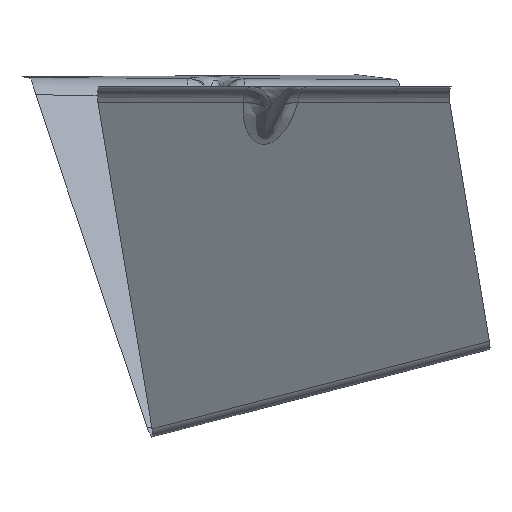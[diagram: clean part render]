
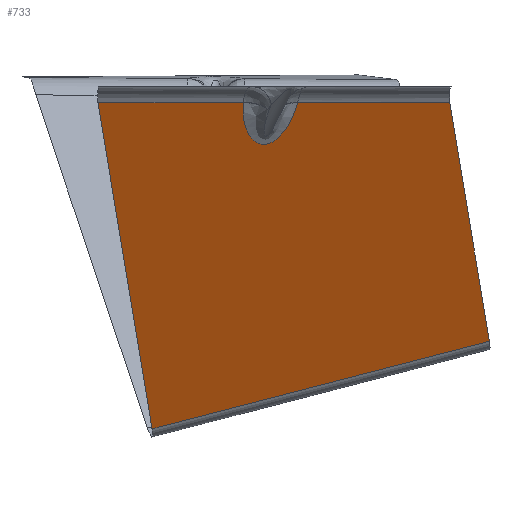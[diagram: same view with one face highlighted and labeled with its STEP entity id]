
A CAD part, left-side view. The second image highlights one B-rep face of the part: STEP entity #733.
In plain terms, the highlighted planar face has unit normal (-0.83, -0.249, -0.5).
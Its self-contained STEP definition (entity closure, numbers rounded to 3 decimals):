
#251=CARTESIAN_POINT('Vertex',(-104.925,9.064,-0.4)) ;
#274=CARTESIAN_POINT('Line Origine',(-82.626,11.684,-38.698)) ;
#278=CARTESIAN_POINT('Vertex',(-104.865,9.071,-0.502)) ;
#618=CARTESIAN_POINT('Control Point',(-100.224,-6.398,-0.502)) ;
#619=CARTESIAN_POINT('Control Point',(-99.76,-6.165,-1.389)) ;
#620=CARTESIAN_POINT('Control Point',(-99.308,-5.891,-2.274)) ;
#621=CARTESIAN_POINT('Control Point',(-98.871,-5.577,-3.155)) ;
#622=CARTESIAN_POINT('Control Point',(-98.084,-4.907,-4.795)) ;
#623=CARTESIAN_POINT('Control Point',(-97.367,-4.058,-6.407)) ;
#624=CARTESIAN_POINT('Control Point',(-97.053,-3.622,-7.146)) ;
#625=CARTESIAN_POINT('Control Point',(-96.64,-2.937,-8.171)) ;
#626=CARTESIAN_POINT('Control Point',(-96.291,-2.123,-9.156)) ;
#627=CARTESIAN_POINT('Control Point',(-96.196,-1.878,-9.435)) ;
#628=CARTESIAN_POINT('Control Point',(-95.979,-1.235,-10.115)) ;
#629=CARTESIAN_POINT('Control Point',(-95.814,-0.501,-10.753)) ;
#630=CARTESIAN_POINT('Control Point',(-95.74,-0.022,-11.115)) ;
#631=CARTESIAN_POINT('Control Point',(-95.677,0.79,-11.624)) ;
#632=CARTESIAN_POINT('Control Point',(-95.737,1.727,-11.99)) ;
#633=CARTESIAN_POINT('Control Point',(-95.777,2.072,-12.096)) ;
#634=CARTESIAN_POINT('Control Point',(-95.882,2.678,-12.223)) ;
#635=CARTESIAN_POINT('Control Point',(-96.05,3.29,-12.25)) ;
#636=CARTESIAN_POINT('Control Point',(-96.129,3.54,-12.242)) ;
#637=CARTESIAN_POINT('Control Point',(-96.368,4.198,-12.173)) ;
#638=CARTESIAN_POINT('Control Point',(-96.66,4.795,-11.986)) ;
#639=CARTESIAN_POINT('Control Point',(-96.857,5.139,-11.83)) ;
#640=CARTESIAN_POINT('Control Point',(-97.205,5.674,-11.52)) ;
#641=CARTESIAN_POINT('Control Point',(-97.561,6.127,-11.154)) ;
#642=CARTESIAN_POINT('Control Point',(-97.712,6.305,-10.992)) ;
#643=CARTESIAN_POINT('Control Point',(-98.05,6.678,-10.617)) ;
#644=CARTESIAN_POINT('Control Point',(-98.388,6.998,-10.216)) ;
#645=CARTESIAN_POINT('Control Point',(-98.574,7.162,-9.989)) ;
#646=CARTESIAN_POINT('Control Point',(-98.992,7.503,-9.465)) ;
#647=CARTESIAN_POINT('Control Point',(-99.405,7.788,-8.922)) ;
#648=CARTESIAN_POINT('Control Point',(-99.633,7.932,-8.616)) ;
#649=CARTESIAN_POINT('Control Point',(-100.139,8.223,-7.921)) ;
#650=CARTESIAN_POINT('Control Point',(-100.636,8.455,-7.212)) ;
#651=CARTESIAN_POINT('Control Point',(-100.909,8.567,-6.815)) ;
#652=CARTESIAN_POINT('Control Point',(-101.884,8.92,-5.373)) ;
#653=CARTESIAN_POINT('Control Point',(-102.825,9.098,-3.899)) ;
#654=CARTESIAN_POINT('Control Point',(-103.488,9.155,-2.829)) ;
#655=CARTESIAN_POINT('Control Point',(-104.156,9.149,-1.717)) ;
#656=CARTESIAN_POINT('Control Point',(-104.807,9.078,-0.601)) ;
#657=CARTESIAN_POINT('Control Point',(-104.827,9.076,-0.568)) ;
#658=CARTESIAN_POINT('Control Point',(-104.846,9.074,-0.535)) ;
#659=CARTESIAN_POINT('Control Point',(-104.865,9.071,-0.502)) ;
#660=CARTESIAN_POINT('Vertex',(-100.224,-6.398,-0.502)) ;
#678=CARTESIAN_POINT('Axis2P3D Location',(-46.3,-13.89,-86.234)) ;
#683=CARTESIAN_POINT('Line Origine',(-100.251,-6.412,-0.451)) ;
#687=CARTESIAN_POINT('Vertex',(-100.278,-6.425,-0.4)) ;
#690=CARTESIAN_POINT('Line Origine',(-111.117,29.707,-0.4)) ;
#694=CARTESIAN_POINT('Vertex',(-117.31,50.35,-0.4)) ;
#697=CARTESIAN_POINT('Line Origine',(-87.072,42.662,-46.739)) ;
#701=CARTESIAN_POINT('Vertex',(-56.834,34.975,-93.078)) ;
#704=CARTESIAN_POINT('Line Origine',(-49.954,-12.961,-80.635)) ;
#708=CARTESIAN_POINT('Vertex',(-43.073,-60.897,-68.192)) ;
#711=CARTESIAN_POINT('Line Origine',(-65.192,-55.274,-34.296)) ;
#715=CARTESIAN_POINT('Vertex',(-87.31,-49.65,-0.4)) ;
#718=CARTESIAN_POINT('Line Origine',(-93.794,-28.038,-0.4)) ;
#275=DIRECTION('Vector Direction',(0.502,0.059,-0.863)) ;
#679=DIRECTION('Axis2P3D Direction',(0.83,0.249,0.5)) ;
#680=DIRECTION('Axis2P3D XDirection',(0.541,-0.138,-0.83)) ;
#684=DIRECTION('Vector Direction',(-0.452,-0.227,0.863)) ;
#691=DIRECTION('Vector Direction',(0.287,-0.958,0.)) ;
#698=DIRECTION('Vector Direction',(0.541,-0.138,-0.83)) ;
#705=DIRECTION('Vector Direction',(0.138,-0.959,0.249)) ;
#712=DIRECTION('Vector Direction',(-0.541,0.138,0.83)) ;
#719=DIRECTION('Vector Direction',(0.287,-0.958,0.)) ;
#681=AXIS2_PLACEMENT_3D('Plane Axis2P3D',#678,#679,#680) ;
#724=ORIENTED_EDGE('',*,*,#689,.T.) ;
#725=ORIENTED_EDGE('',*,*,#662,.T.) ;
#726=ORIENTED_EDGE('',*,*,#280,.T.) ;
#727=ORIENTED_EDGE('',*,*,#696,.F.) ;
#728=ORIENTED_EDGE('',*,*,#703,.T.) ;
#729=ORIENTED_EDGE('',*,*,#710,.T.) ;
#730=ORIENTED_EDGE('',*,*,#717,.T.) ;
#731=ORIENTED_EDGE('',*,*,#722,.F.) ;
#276=VECTOR('Line Direction',#275,1.) ;
#685=VECTOR('Line Direction',#684,1.) ;
#692=VECTOR('Line Direction',#691,1.) ;
#699=VECTOR('Line Direction',#698,1.) ;
#706=VECTOR('Line Direction',#705,1.) ;
#713=VECTOR('Line Direction',#712,1.) ;
#720=VECTOR('Line Direction',#719,1.) ;
#733=ADVANCED_FACE('Extract.1',(#732),#682,.F.) ;
#617=B_SPLINE_CURVE_WITH_KNOTS('',5,(#618,#619,#620,#621,#622,#623,#624,#625,#626,#627,#628,#629,#630,#631,#632,#633,#634,#635,#636,#637,#638,#639,#640,#641,#642,#643,#644,#645,#646,#647,#648,#649,#650,#651,#652,#653,#654,#655,#656,#657,#658,#659),.UNSPECIFIED.,.F.,.U.,(6,3,3,3,3,3,3,3,3,3,3,3,3,6),(28.704,35.524,41.449,43.842,47.385,49.301,50.642,52.921,54.574,56.627,59.199,62.381,70.705,70.959),.UNSPECIFIED.) ;
#280=EDGE_CURVE('',#279,#252,#277,.F.) ;
#662=EDGE_CURVE('',#661,#279,#617,.T.) ;
#689=EDGE_CURVE('',#688,#661,#686,.F.) ;
#696=EDGE_CURVE('',#695,#252,#693,.T.) ;
#703=EDGE_CURVE('',#695,#702,#700,.T.) ;
#710=EDGE_CURVE('',#702,#709,#707,.T.) ;
#717=EDGE_CURVE('',#709,#716,#714,.T.) ;
#722=EDGE_CURVE('',#688,#716,#721,.T.) ;
#723=EDGE_LOOP('',(#724,#725,#726,#727,#728,#729,#730,#731)) ;
#732=FACE_OUTER_BOUND('',#723,.T.) ;
#277=LINE('Line',#274,#276) ;
#686=LINE('Line',#683,#685) ;
#693=LINE('Line',#690,#692) ;
#700=LINE('Line',#697,#699) ;
#707=LINE('Line',#704,#706) ;
#714=LINE('Line',#711,#713) ;
#721=LINE('Line',#718,#720) ;
#682=PLANE('',#681) ;
#252=VERTEX_POINT('',#251) ;
#279=VERTEX_POINT('',#278) ;
#661=VERTEX_POINT('',#660) ;
#688=VERTEX_POINT('',#687) ;
#695=VERTEX_POINT('',#694) ;
#702=VERTEX_POINT('',#701) ;
#709=VERTEX_POINT('',#708) ;
#716=VERTEX_POINT('',#715) ;
